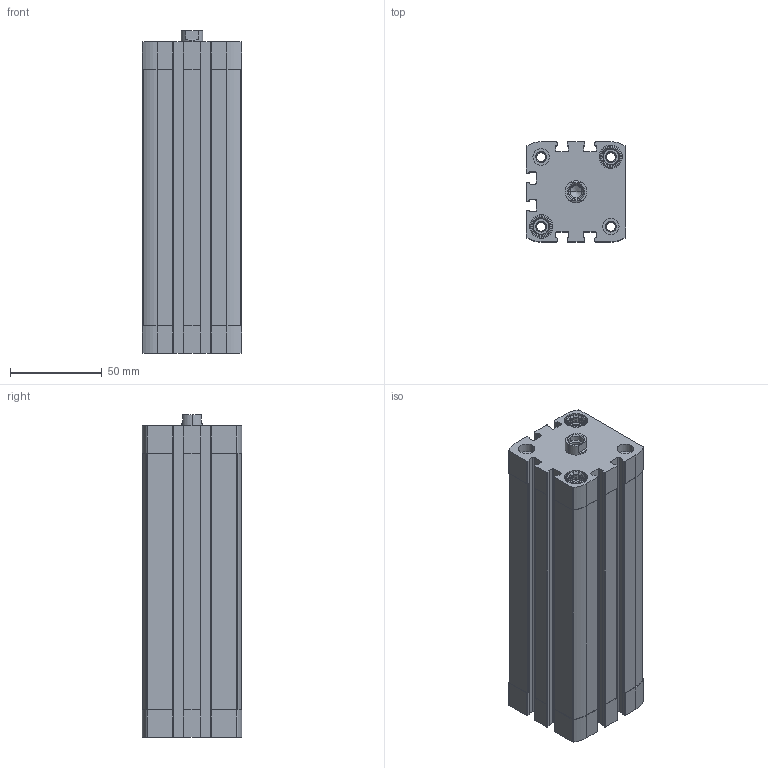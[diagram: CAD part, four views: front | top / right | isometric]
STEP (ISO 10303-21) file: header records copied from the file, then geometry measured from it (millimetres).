
FILE_DESCRIPTION (( 'STEP AP203' ), '1' );
FILE_NAME ('CCN40-125F.STEP', '2017-03-29T18:39:21', ( '' ), ( '' ), 'SwSTEP 2.0', 'SolidWorks 2016', '' );
FILE_SCHEMA (( 'CONFIG_CONTROL_DESIGN' ));
Length unit declared in the file: millimetre
Products named in the file (3): CCN-125----(Z); CCN-125_(KS); CCN40-125F
Assembly tree (2 placements, depth 2):
  CCN40-125F
    CCN-125----(Z)
    CCN-125_(KS)
Bounding box: 54.5 x 54.5 x 176.1 mm (x, y, z)
Volume: 294804.6 mm3; surface area: 98716.8 mm2
Topology: 2 solids, 2 shells, 479 faces, 1298 edges, 853 vertices
Faces by surface type: plane 267, cylinder 170, cone 42
Entity records: 15589 total; most frequent: CARTESIAN_POINT 2927, DIRECTION 2652, ORIENTED_EDGE 2592, EDGE_CURVE 1296, AXIS2_PLACEMENT_3D 970, VERTEX_POINT 853, LINE 712, VECTOR 712
